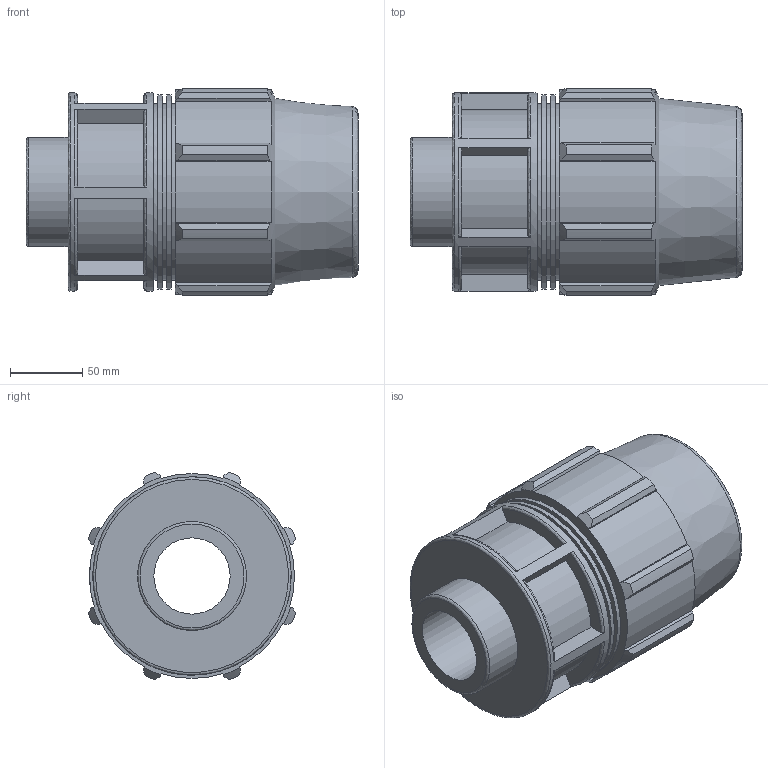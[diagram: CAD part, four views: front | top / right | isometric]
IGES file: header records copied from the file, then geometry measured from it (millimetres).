
Global section: file name: 0702060900250A.ipt; native system: Autodesk Inventor 2015; preprocessor: unknown; author: KIM; date: 20180325.201124; units: millimetre
Bounding box: 229 x 143.02 x 143.02 mm (x, y, z)
Volume: 1559504.8 mm3; surface area: 203516.6 mm2
Topology: 1 solids, 1 shells, 125 faces, 333 edges, 224 vertices
Faces by surface type: plane 67, cylinder 29, revolution 19, cone 10
Full cylindrical faces by diameter (mm): 75.184 x1, 121.6 x3, 134.064 x2, 136.8 x1
